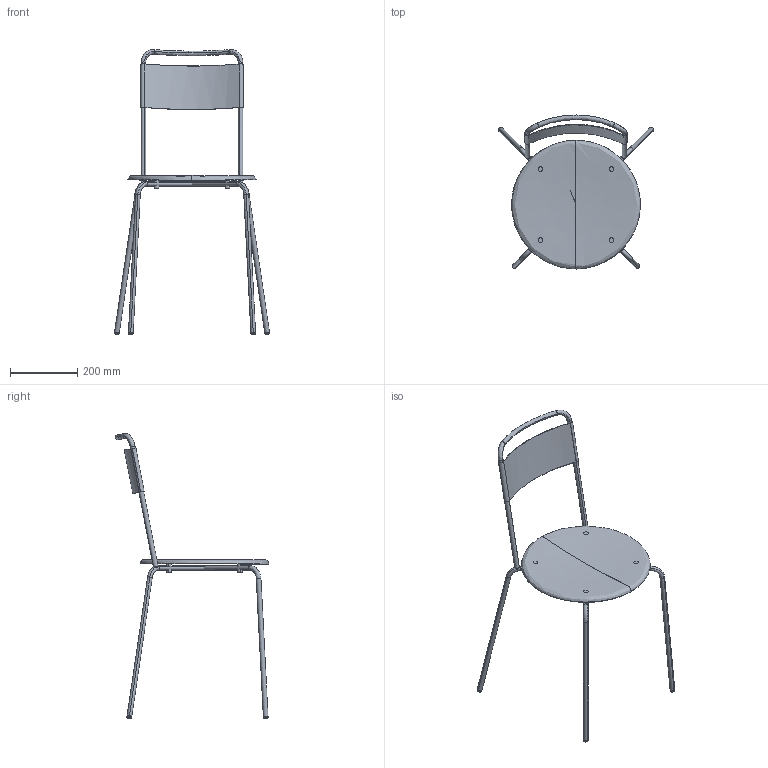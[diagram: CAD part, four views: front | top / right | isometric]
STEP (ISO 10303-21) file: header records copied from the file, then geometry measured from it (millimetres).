
FILE_DESCRIPTION(/* description */ (''),/* implementation_level */ '2;1');
FILE_NAME(/* name */ 'FRAMA_PetitRond-Chair-3D',/* time_stamp */ '2025-10-21T11:56:00+02:00',/* author */ (''),/* organization */ (''),/* preprocessor_version */ 'ST-DEVELOPER v16.5',/* originating_system */ 'Rhino 7.38',/* authorisation */ '');
FILE_SCHEMA (('CONFIG_CONTROL_DESIGN'));
Length unit declared in the file: millimetre
Products named in the file (1): Document
Bounding box: 462.09 x 458.37 x 849.23 mm (x, y, z)
Volume: 343027.1 mm3; surface area: 508794.6 mm2
Topology: 10 solids, 34 shells, 104 faces, 286 edges, 220 vertices
Faces by surface type: bspline 43, cylinder 36, plane 25
Entity records: 7031 total; most frequent: CARTESIAN_POINT 5329, ORIENTED_EDGE 434, EDGE_CURVE 282, VERTEX_POINT 220, ADVANCED_FACE 104, FACE_OUTER_BOUND 104, EDGE_LOOP 104, B_SPLINE_CURVE_WITH_KNOTS 98
